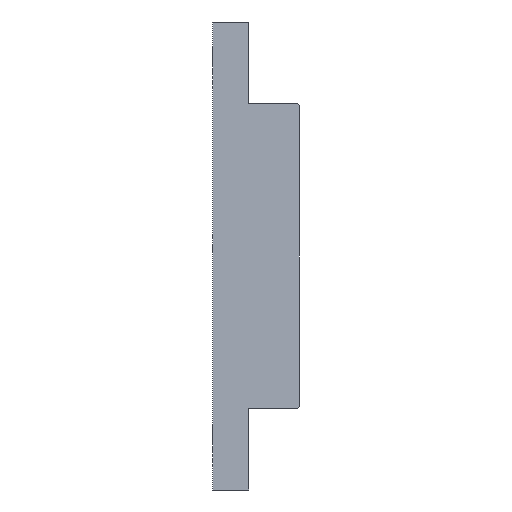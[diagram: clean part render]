
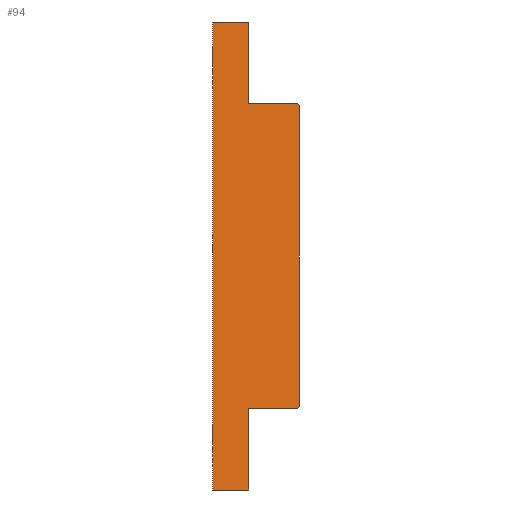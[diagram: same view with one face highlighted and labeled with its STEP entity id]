
A CAD part, left-side view. The second image highlights one B-rep face of the part: STEP entity #94.
In plain terms, the highlighted planar face has unit normal (-0.997, 0, 0.084).
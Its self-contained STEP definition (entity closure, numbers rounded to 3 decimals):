
#94 = ADVANCED_FACE( '', ( #224 ), #225, .T. );
#224 = FACE_OUTER_BOUND( '', #385, .T. );
#225 = PLANE( '', #386 );
#385 = EDGE_LOOP( '', ( #632, #633, #634, #635, #636, #637, #638, #639, #640, #641 ) );
#386 = AXIS2_PLACEMENT_3D( '', #642, #643, #644 );
#632 = ORIENTED_EDGE( '', *, *, #954, .F. );
#633 = ORIENTED_EDGE( '', *, *, #991, .T. );
#634 = ORIENTED_EDGE( '', *, *, #992, .F. );
#635 = ORIENTED_EDGE( '', *, *, #935, .T. );
#636 = ORIENTED_EDGE( '', *, *, #993, .T. );
#637 = ORIENTED_EDGE( '', *, *, #994, .F. );
#638 = ORIENTED_EDGE( '', *, *, #950, .F. );
#639 = ORIENTED_EDGE( '', *, *, #925, .T. );
#640 = ORIENTED_EDGE( '', *, *, #995, .T. );
#641 = ORIENTED_EDGE( '', *, *, #945, .F. );
#642 = CARTESIAN_POINT( '', ( -195.192, 4., -26.978 ) );
#643 = DIRECTION( '', ( -0.996, 0., 0.084 ) );
#644 = DIRECTION( '', ( 0.084, 0., 0.996 ) );
#925 = EDGE_CURVE( '', #1080, #1078, #1081, .T. );
#935 = EDGE_CURVE( '', #1098, #1096, #1099, .T. );
#945 = EDGE_CURVE( '', #1115, #1117, #1118, .T. );
#950 = EDGE_CURVE( '', #1080, #1122, #1125, .T. );
#954 = EDGE_CURVE( '', #1129, #1115, #1131, .T. );
#991 = EDGE_CURVE( '', #1129, #1189, #1190, .T. );
#992 = EDGE_CURVE( '', #1098, #1189, #1191, .T. );
#993 = EDGE_CURVE( '', #1096, #1192, #1193, .T. );
#994 = EDGE_CURVE( '', #1122, #1192, #1194, .T. );
#995 = EDGE_CURVE( '', #1078, #1117, #1195, .T. );
#1078 = VERTEX_POINT( '', #1303 );
#1080 = VERTEX_POINT( '', #1306 );
#1081 = LINE( '', #1307, #1308 );
#1096 = VERTEX_POINT( '', #1332 );
#1098 = VERTEX_POINT( '', #1335 );
#1099 = ELLIPSE( '', #1336, 0.201, 0.2 );
#1115 = VERTEX_POINT( '', #1354 );
#1117 = VERTEX_POINT( '', #1357 );
#1118 = LINE( '', #1358, #1359 );
#1122 = VERTEX_POINT( '', #1364 );
#1125 = LINE( '', #1369, #1370 );
#1129 = VERTEX_POINT( '', #1375 );
#1131 = LINE( '', #1378, #1379 );
#1189 = VERTEX_POINT( '', #1503 );
#1190 = ELLIPSE( '', #1504, 0.201, 0.2 );
#1191 = LINE( '', #1505, #1506 );
#1192 = VERTEX_POINT( '', #1507 );
#1193 = LINE( '', #1508, #1509 );
#1194 = LINE( '', #1510, #1511 );
#1195 = LINE( '', #1512, #1513 );
#1303 = CARTESIAN_POINT( '', ( -199.558, 4., -78.978 ) );
#1306 = CARTESIAN_POINT( '', ( -195.192, 4., -26.978 ) );
#1307 = CARTESIAN_POINT( '', ( -195.192, 4., -26.978 ) );
#1308 = VECTOR( '', #1759, 1000. );
#1332 = CARTESIAN_POINT( '', ( -195.956, -5.4, -36.078 ) );
#1335 = CARTESIAN_POINT( '', ( -195.973, -5.6, -36.278 ) );
#1336 = AXIS2_PLACEMENT_3D( '', #1767, #1768, #1769 );
#1354 = CARTESIAN_POINT( '', ( -198.794, 0., -69.878 ) );
#1357 = CARTESIAN_POINT( '', ( -199.558, 0., -78.978 ) );
#1358 = CARTESIAN_POINT( '', ( -195.192, 0., -26.978 ) );
#1359 = VECTOR( '', #1788, 1000. );
#1364 = CARTESIAN_POINT( '', ( -195.192, 0., -26.978 ) );
#1369 = CARTESIAN_POINT( '', ( -195.192, 4., -26.978 ) );
#1370 = VECTOR( '', #1792, 1000. );
#1375 = CARTESIAN_POINT( '', ( -198.794, -5.4, -69.878 ) );
#1378 = CARTESIAN_POINT( '', ( -198.794, -5.6, -69.878 ) );
#1379 = VECTOR( '', #1795, 1000. );
#1503 = CARTESIAN_POINT( '', ( -198.777, -5.6, -69.678 ) );
#1504 = AXIS2_PLACEMENT_3D( '', #1814, #1815, #1816 );
#1505 = CARTESIAN_POINT( '', ( -195.956, -5.6, -36.078 ) );
#1506 = VECTOR( '', #1817, 1000. );
#1507 = CARTESIAN_POINT( '', ( -195.956, 0., -36.078 ) );
#1508 = CARTESIAN_POINT( '', ( -195.956, -5.6, -36.078 ) );
#1509 = VECTOR( '', #1818, 1000. );
#1510 = CARTESIAN_POINT( '', ( -195.192, 0., -26.978 ) );
#1511 = VECTOR( '', #1819, 1000. );
#1512 = CARTESIAN_POINT( '', ( -199.558, 4., -78.978 ) );
#1513 = VECTOR( '', #1820, 1000. );
#1759 = DIRECTION( '', ( -0.084, 0., -0.996 ) );
#1767 = CARTESIAN_POINT( '', ( -195.973, -5.4, -36.278 ) );
#1768 = DIRECTION( '', ( -0.996, 0., 0.084 ) );
#1769 = DIRECTION( '', ( 0.084, 0., 0.996 ) );
#1788 = DIRECTION( '', ( -0.084, 0., -0.996 ) );
#1792 = DIRECTION( '', ( 0., -1., 0. ) );
#1795 = DIRECTION( '', ( 0., 1., 0. ) );
#1814 = CARTESIAN_POINT( '', ( -198.777, -5.4, -69.678 ) );
#1815 = DIRECTION( '', ( -0.996, 0., 0.084 ) );
#1816 = DIRECTION( '', ( -0.084, 0., -0.996 ) );
#1817 = DIRECTION( '', ( -0.084, 0., -0.996 ) );
#1818 = DIRECTION( '', ( 0., 1., 0. ) );
#1819 = DIRECTION( '', ( -0.084, 0., -0.996 ) );
#1820 = DIRECTION( '', ( 0., -1., 0. ) );
